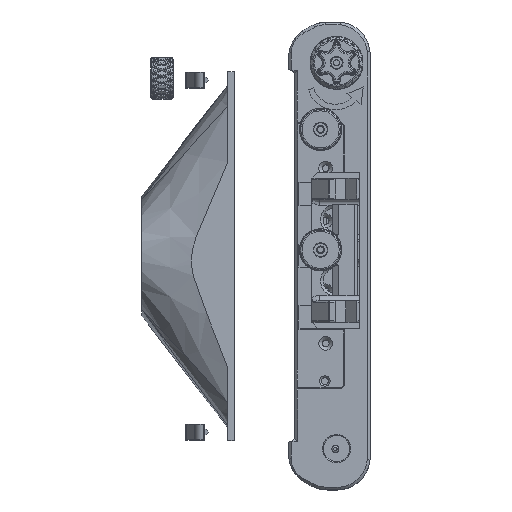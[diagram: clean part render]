
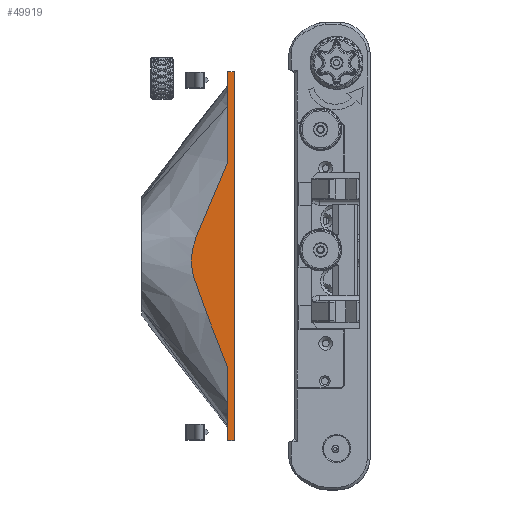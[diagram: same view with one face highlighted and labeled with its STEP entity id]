
A CAD part, top view. The second image highlights one B-rep face of the part: STEP entity #49919.
In plain terms, the highlighted planar face has unit normal (0, 0, 1).
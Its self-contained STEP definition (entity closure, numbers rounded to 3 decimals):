
#2406=B_SPLINE_CURVE_WITH_KNOTS($,3,(#91530,#91531,#91532,#91533,#91534,
#91535,#91536,#91537,#91538,#91539,#91540,#91541,#91542,#91543),
 .UNSPECIFIED.,.F.,.F.,(4,2,2,2,2,2,4),(-29.243,-25.727,
-19.911,-17.317,-14.77,-7.387,
-6.018),.UNSPECIFIED.);
#7922=FACE_OUTER_BOUND($,#11254,.T.);
#11254=EDGE_LOOP($,(#43033,#43034,#43035,#43036,#43037,#43038));
#14719=LINE($,#90127,#18243);
#14794=LINE($,#91473,#18318);
#14797=LINE($,#91489,#18321);
#14801=LINE($,#91793,#18325);
#14802=LINE($,#91795,#18326);
#18243=VECTOR($,#65916,5.163);
#18318=VECTOR($,#66101,0.38);
#18321=VECTOR($,#66106,4.166);
#18325=VECTOR($,#66118,21.044);
#18326=VECTOR($,#66121,0.38);
#22567=VERTEX_POINT($,#90120);
#22568=VERTEX_POINT($,#90126);
#22664=VERTEX_POINT($,#91470);
#22665=VERTEX_POINT($,#91472);
#22666=VERTEX_POINT($,#91476);
#22670=VERTEX_POINT($,#91791);
#29371=EDGE_CURVE($,#22567,#22568,#14719,.T.);
#29518=EDGE_CURVE($,#22664,#22665,#14794,.T.);
#29523=EDGE_CURVE($,#22665,#22666,#14797,.T.);
#29524=EDGE_CURVE($,#22666,#22567,#2406,.F.);
#29535=EDGE_CURVE($,#22664,#22670,#14801,.T.);
#29536=EDGE_CURVE($,#22568,#22670,#14802,.T.);
#43033=ORIENTED_EDGE($,*,*,#29523,.F.);
#43034=ORIENTED_EDGE($,*,*,#29518,.F.);
#43035=ORIENTED_EDGE($,*,*,#29535,.T.);
#43036=ORIENTED_EDGE($,*,*,#29536,.F.);
#43037=ORIENTED_EDGE($,*,*,#29371,.F.);
#43038=ORIENTED_EDGE($,*,*,#29524,.F.);
#47007=PLANE($,#54406);
#49919=ADVANCED_FACE($,(#7922),#47007,.F.);
#54406=AXIS2_PLACEMENT_3D($,#91794,#66119,#66120);
#65916=DIRECTION($,(0.,1.,0.));
#66101=DIRECTION($,(-1.,0.,0.));
#66106=DIRECTION($,(0.,1.,0.));
#66118=DIRECTION($,(0.,1.,0.));
#66119=DIRECTION('center_axis',(0.,0.,-1.));
#66120=DIRECTION('ref_axis',(1.,0.,0.));
#66121=DIRECTION($,(1.,0.,0.));
#90120=CARTESIAN_POINT('',(-13.236,22.253,9.861));
#90126=CARTESIAN_POINT('',(-13.236,27.416,9.861));
#90127=CARTESIAN_POINT($,(-13.236,21.804,9.861));
#91470=CARTESIAN_POINT('',(-12.856,6.372,9.861));
#91472=CARTESIAN_POINT('',(-13.236,6.372,9.861));
#91473=CARTESIAN_POINT($,(-12.781,6.372,9.861));
#91476=CARTESIAN_POINT('',(-13.236,10.538,9.861));
#91489=CARTESIAN_POINT($,(-13.236,21.804,9.861));
#91530=CARTESIAN_POINT('Ctrl Pts',(-13.236,22.253,9.861));
#91531=CARTESIAN_POINT('Ctrl Pts',(-13.56,21.388,9.861));
#91532=CARTESIAN_POINT('Ctrl Pts',(-13.874,20.661,9.861));
#91533=CARTESIAN_POINT('Ctrl Pts',(-14.625,18.979,9.861));
#91534=CARTESIAN_POINT('Ctrl Pts',(-14.993,18.222,9.861));
#91535=CARTESIAN_POINT('Ctrl Pts',(-15.258,17.22,9.861));
#91536=CARTESIAN_POINT('Ctrl Pts',(-15.305,16.915,9.861));
#91537=CARTESIAN_POINT('Ctrl Pts',(-15.303,16.277,9.861));
#91538=CARTESIAN_POINT('Ctrl Pts',(-15.255,15.962,9.861));
#91539=CARTESIAN_POINT('Ctrl Pts',(-14.91,14.626,9.861));
#91540=CARTESIAN_POINT('Ctrl Pts',(-14.314,13.429,9.861));
#91541=CARTESIAN_POINT('Ctrl Pts',(-13.485,11.238,9.861));
#91542=CARTESIAN_POINT('Ctrl Pts',(-13.359,10.891,9.861));
#91543=CARTESIAN_POINT('Ctrl Pts',(-13.236,10.538,9.861));
#91791=CARTESIAN_POINT('',(-12.856,27.416,9.861));
#91793=CARTESIAN_POINT($,(-12.856,16.893,9.861));
#91794=CARTESIAN_POINT('Origin',(-12.706,16.893,9.861));
#91795=CARTESIAN_POINT($,(-12.781,27.416,9.861));
